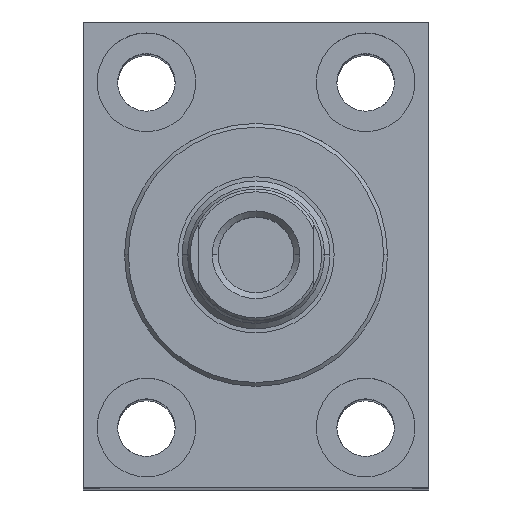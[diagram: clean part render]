
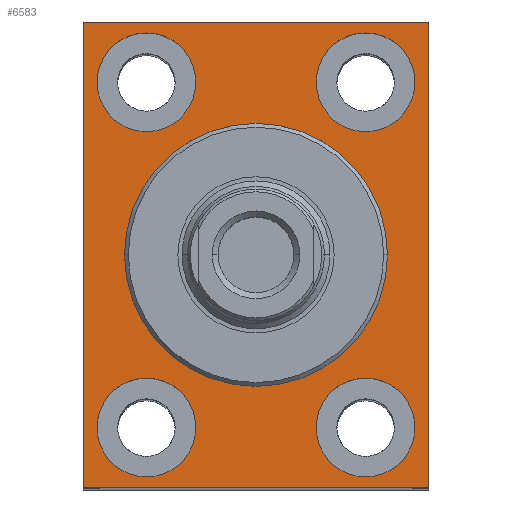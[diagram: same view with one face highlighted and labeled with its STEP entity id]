
A CAD part, top view. The second image highlights one B-rep face of the part: STEP entity #6583.
In plain terms, the highlighted planar face has unit normal (0, 0, 1).
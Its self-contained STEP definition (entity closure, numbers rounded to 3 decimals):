
#20 = ORIENTED_EDGE ( 'NONE', *, *, #6596, .T. ) ;
#28 = DIRECTION ( 'NONE',  ( -1., 0., 0. ) ) ;
#117 = CARTESIAN_POINT ( 'NONE',  ( 20., 31.5, -10. ) ) ;
#259 = EDGE_CURVE ( 'NONE', #4305, #1329, #6303, .T. ) ;
#325 = DIRECTION ( 'NONE',  ( 0., 0., -1. ) ) ;
#549 = ORIENTED_EDGE ( 'NONE', *, *, #594, .T. ) ;
#564 = EDGE_CURVE ( 'NONE', #6958, #6536, #5779, .T. ) ;
#594 = EDGE_CURVE ( 'NONE', #4330, #7452, #6561, .T. ) ;
#672 = VECTOR ( 'NONE', #7513, 1000. ) ;
#730 = DIRECTION ( 'NONE',  ( 0., -1., 0. ) ) ;
#769 = FACE_OUTER_BOUND ( 'NONE', #1944, .T. ) ;
#787 = CARTESIAN_POINT ( 'NONE',  ( 20., 31.5, -10. ) ) ;
#1022 = LINE ( 'NONE', #4315, #3852 ) ;
#1031 = ORIENTED_EDGE ( 'NONE', *, *, #2076, .T. ) ;
#1128 = VECTOR ( 'NONE', #730, 1000. ) ;
#1223 = AXIS2_PLACEMENT_3D ( 'NONE', #787, #2746, #6942 ) ;
#1329 = VERTEX_POINT ( 'NONE', #5046 ) ;
#1448 = LINE ( 'NONE', #2109, #3299 ) ;
#1507 = VERTEX_POINT ( 'NONE', #6104 ) ;
#1606 = CIRCLE ( 'NONE', #1223, 9. ) ;
#1677 = VERTEX_POINT ( 'NONE', #5038 ) ;
#1791 = DIRECTION ( 'NONE',  ( 0., 0., -1. ) ) ;
#1810 = ORIENTED_EDGE ( 'NONE', *, *, #564, .T. ) ;
#1827 = ORIENTED_EDGE ( 'NONE', *, *, #3263, .T. ) ;
#1943 = CARTESIAN_POINT ( 'NONE',  ( -31.5, 42.5, -10. ) ) ;
#1944 = EDGE_LOOP ( 'NONE', ( #20, #4197, #1827, #3846 ) ) ;
#1948 = VERTEX_POINT ( 'NONE', #7323 ) ;
#1959 = EDGE_CURVE ( 'NONE', #1329, #4305, #2760, .T. ) ;
#2054 = ORIENTED_EDGE ( 'NONE', *, *, #7129, .T. ) ;
#2076 = EDGE_CURVE ( 'NONE', #7476, #5702, #5689, .T. ) ;
#2109 = CARTESIAN_POINT ( 'NONE',  ( 31.5, -42.5, -10. ) ) ;
#2300 = CARTESIAN_POINT ( 'NONE',  ( -24.001, 0., -10. ) ) ;
#2319 = EDGE_CURVE ( 'NONE', #5702, #7476, #7789, .T. ) ;
#2482 = AXIS2_PLACEMENT_3D ( 'NONE', #4870, #1791, #8171 ) ;
#2557 = CARTESIAN_POINT ( 'NONE',  ( 0., 0., -10. ) ) ;
#2609 = EDGE_LOOP ( 'NONE', ( #5979, #6344 ) ) ;
#2672 = DIRECTION ( 'NONE',  ( 0., 0., -1. ) ) ;
#2724 = AXIS2_PLACEMENT_3D ( 'NONE', #2557, #4046, #6643 ) ;
#2732 = DIRECTION ( 'NONE',  ( -1., 0., 0. ) ) ;
#2746 = DIRECTION ( 'NONE',  ( 0., 0., -1. ) ) ;
#2760 = CIRCLE ( 'NONE', #3835, 24.001 ) ;
#2780 = CIRCLE ( 'NONE', #4117, 9. ) ;
#2795 = EDGE_CURVE ( 'NONE', #6536, #6958, #2780, .T. ) ;
#2800 = DIRECTION ( 'NONE',  ( -1., 0., 0. ) ) ;
#2929 = CIRCLE ( 'NONE', #3070, 9. ) ;
#2979 = AXIS2_PLACEMENT_3D ( 'NONE', #3967, #2672, #2800 ) ;
#2992 = EDGE_LOOP ( 'NONE', ( #5939, #549 ) ) ;
#3070 = AXIS2_PLACEMENT_3D ( 'NONE', #3821, #3897, #5796 ) ;
#3097 = EDGE_LOOP ( 'NONE', ( #4945, #1031 ) ) ;
#3157 = AXIS2_PLACEMENT_3D ( 'NONE', #117, #5188, #5073 ) ;
#3206 = FACE_BOUND ( 'NONE', #2992, .T. ) ;
#3238 = CARTESIAN_POINT ( 'NONE',  ( -20., -31.5, -10. ) ) ;
#3251 = CARTESIAN_POINT ( 'NONE',  ( -11., 31.5, -10. ) ) ;
#3263 = EDGE_CURVE ( 'NONE', #7950, #1948, #1448, .T. ) ;
#3299 = VECTOR ( 'NONE', #7079, 1000. ) ;
#3320 = CARTESIAN_POINT ( 'NONE',  ( 0., 0., -10. ) ) ;
#3491 = CARTESIAN_POINT ( 'NONE',  ( -20., -31.5, -10. ) ) ;
#3612 = CARTESIAN_POINT ( 'NONE',  ( 11., -31.5, -10. ) ) ;
#3650 = EDGE_LOOP ( 'NONE', ( #6655, #2054 ) ) ;
#3681 = EDGE_CURVE ( 'NONE', #1677, #4874, #2929, .T. ) ;
#3809 = CARTESIAN_POINT ( 'NONE',  ( -29., -31.5, -10. ) ) ;
#3821 = CARTESIAN_POINT ( 'NONE',  ( -20., 31.5, -10. ) ) ;
#3835 = AXIS2_PLACEMENT_3D ( 'NONE', #4816, #4067, #2732 ) ;
#3846 = ORIENTED_EDGE ( 'NONE', *, *, #5619, .T. ) ;
#3852 = VECTOR ( 'NONE', #6782, 1000. ) ;
#3860 = DIRECTION ( 'NONE',  ( 1., 0., 0. ) ) ;
#3897 = DIRECTION ( 'NONE',  ( 0., 0., -1. ) ) ;
#3967 = CARTESIAN_POINT ( 'NONE',  ( -20., 31.5, -10. ) ) ;
#4046 = DIRECTION ( 'NONE',  ( 0., 0., -1. ) ) ;
#4067 = DIRECTION ( 'NONE',  ( 0., 0., -1. ) ) ;
#4107 = AXIS2_PLACEMENT_3D ( 'NONE', #3238, #5138, #28 ) ;
#4117 = AXIS2_PLACEMENT_3D ( 'NONE', #6429, #5892, #5161 ) ;
#4197 = ORIENTED_EDGE ( 'NONE', *, *, #4726, .T. ) ;
#4305 = VERTEX_POINT ( 'NONE', #2300 ) ;
#4315 = CARTESIAN_POINT ( 'NONE',  ( 31.5, 42.5, -10. ) ) ;
#4330 = VERTEX_POINT ( 'NONE', #4839 ) ;
#4378 = CARTESIAN_POINT ( 'NONE',  ( -31.5, -42.5, -10. ) ) ;
#4411 = FACE_BOUND ( 'NONE', #7659, .T. ) ;
#4472 = CARTESIAN_POINT ( 'NONE',  ( -11., -31.5, -10. ) ) ;
#4531 = FACE_BOUND ( 'NONE', #3097, .T. ) ;
#4568 = CARTESIAN_POINT ( 'NONE',  ( 31.5, -42.5, -10. ) ) ;
#4726 = EDGE_CURVE ( 'NONE', #7815, #7950, #5532, .T. ) ;
#4816 = CARTESIAN_POINT ( 'NONE',  ( 0., 0., -10. ) ) ;
#4839 = CARTESIAN_POINT ( 'NONE',  ( 29., 31.5, -10. ) ) ;
#4870 = CARTESIAN_POINT ( 'NONE',  ( 20., -31.5, -10. ) ) ;
#4874 = VERTEX_POINT ( 'NONE', #3251 ) ;
#4945 = ORIENTED_EDGE ( 'NONE', *, *, #2319, .T. ) ;
#5038 = CARTESIAN_POINT ( 'NONE',  ( -29., 31.5, -10. ) ) ;
#5046 = CARTESIAN_POINT ( 'NONE',  ( 24.001, 0., -10. ) ) ;
#5073 = DIRECTION ( 'NONE',  ( -1., 0., 0. ) ) ;
#5138 = DIRECTION ( 'NONE',  ( 0., 0., -1. ) ) ;
#5161 = DIRECTION ( 'NONE',  ( -1., 0., 0. ) ) ;
#5183 = DIRECTION ( 'NONE',  ( 0., 0., 1. ) ) ;
#5188 = DIRECTION ( 'NONE',  ( 0., 0., -1. ) ) ;
#5389 = DIRECTION ( 'NONE',  ( -1., 0., 0. ) ) ;
#5532 = LINE ( 'NONE', #4378, #672 ) ;
#5619 = EDGE_CURVE ( 'NONE', #1948, #1507, #1022, .T. ) ;
#5685 = FACE_BOUND ( 'NONE', #2609, .T. ) ;
#5689 = CIRCLE ( 'NONE', #5941, 9. ) ;
#5702 = VERTEX_POINT ( 'NONE', #3809 ) ;
#5778 = EDGE_CURVE ( 'NONE', #7452, #4330, #1606, .T. ) ;
#5779 = CIRCLE ( 'NONE', #2482, 9. ) ;
#5796 = DIRECTION ( 'NONE',  ( -1., 0., 0. ) ) ;
#5797 = FACE_BOUND ( 'NONE', #3650, .T. ) ;
#5892 = DIRECTION ( 'NONE',  ( 0., 0., -1. ) ) ;
#5939 = ORIENTED_EDGE ( 'NONE', *, *, #5778, .T. ) ;
#5941 = AXIS2_PLACEMENT_3D ( 'NONE', #3491, #325, #5389 ) ;
#5979 = ORIENTED_EDGE ( 'NONE', *, *, #259, .T. ) ;
#6103 = ORIENTED_EDGE ( 'NONE', *, *, #2795, .T. ) ;
#6104 = CARTESIAN_POINT ( 'NONE',  ( -31.5, 42.5, -10. ) ) ;
#6286 = AXIS2_PLACEMENT_3D ( 'NONE', #3320, #5183, #3860 ) ;
#6303 = CIRCLE ( 'NONE', #2724, 24.001 ) ;
#6344 = ORIENTED_EDGE ( 'NONE', *, *, #1959, .T. ) ;
#6429 = CARTESIAN_POINT ( 'NONE',  ( 20., -31.5, -10. ) ) ;
#6453 = LINE ( 'NONE', #1943, #1128 ) ;
#6536 = VERTEX_POINT ( 'NONE', #8167 ) ;
#6561 = CIRCLE ( 'NONE', #3157, 9. ) ;
#6583 = ADVANCED_FACE ( 'NONE', ( #5685, #5797, #3206, #4411, #4531, #769 ), #7618, .T. ) ;
#6596 = EDGE_CURVE ( 'NONE', #1507, #7815, #6453, .T. ) ;
#6643 = DIRECTION ( 'NONE',  ( -1., 0., 0. ) ) ;
#6655 = ORIENTED_EDGE ( 'NONE', *, *, #3681, .T. ) ;
#6782 = DIRECTION ( 'NONE',  ( -1., 0., 0. ) ) ;
#6900 = CARTESIAN_POINT ( 'NONE',  ( 11., 31.5, -10. ) ) ;
#6922 = CARTESIAN_POINT ( 'NONE',  ( -31.5, -42.5, -10. ) ) ;
#6942 = DIRECTION ( 'NONE',  ( -1., 0., 0. ) ) ;
#6958 = VERTEX_POINT ( 'NONE', #3612 ) ;
#7079 = DIRECTION ( 'NONE',  ( 0., 1., 0. ) ) ;
#7129 = EDGE_CURVE ( 'NONE', #4874, #1677, #7726, .T. ) ;
#7323 = CARTESIAN_POINT ( 'NONE',  ( 31.5, 42.5, -10. ) ) ;
#7452 = VERTEX_POINT ( 'NONE', #6900 ) ;
#7476 = VERTEX_POINT ( 'NONE', #4472 ) ;
#7513 = DIRECTION ( 'NONE',  ( 1., 0., 0. ) ) ;
#7618 = PLANE ( 'NONE',  #6286 ) ;
#7659 = EDGE_LOOP ( 'NONE', ( #1810, #6103 ) ) ;
#7726 = CIRCLE ( 'NONE', #2979, 9. ) ;
#7789 = CIRCLE ( 'NONE', #4107, 9. ) ;
#7815 = VERTEX_POINT ( 'NONE', #6922 ) ;
#7950 = VERTEX_POINT ( 'NONE', #4568 ) ;
#8167 = CARTESIAN_POINT ( 'NONE',  ( 29., -31.5, -10. ) ) ;
#8171 = DIRECTION ( 'NONE',  ( -1., 0., 0. ) ) ;
